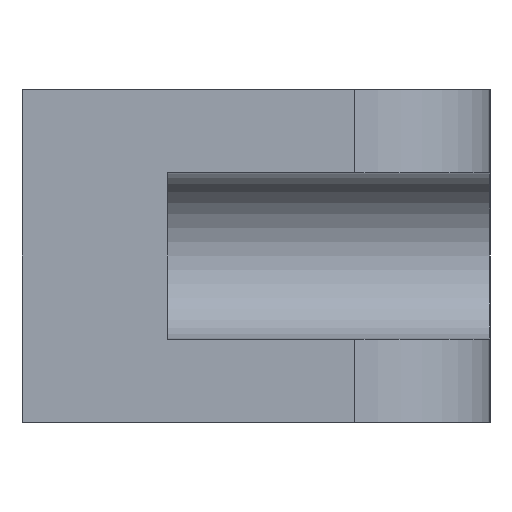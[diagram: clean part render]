
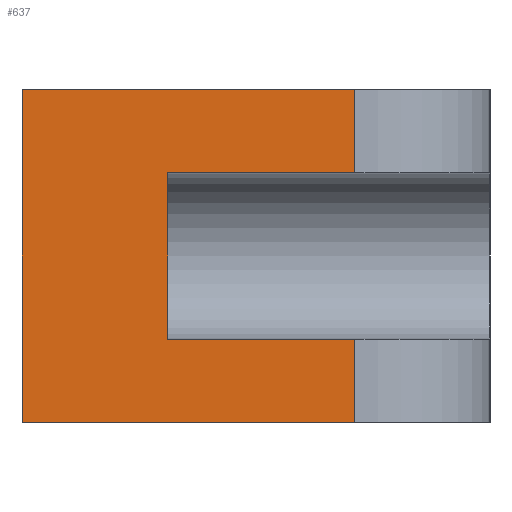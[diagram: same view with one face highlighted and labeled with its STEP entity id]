
A CAD part, left-side view. The second image highlights one B-rep face of the part: STEP entity #637.
In plain terms, the highlighted planar face has unit normal (-1, 0, 0).
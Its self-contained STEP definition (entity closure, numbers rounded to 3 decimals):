
#21 = CARTESIAN_POINT ( 'NONE',  ( 0., 31., 8. ) ) ;
#26 = ORIENTED_EDGE ( 'NONE', *, *, #220, .F. ) ;
#38 = CARTESIAN_POINT ( 'NONE',  ( 0., 45., 16. ) ) ;
#41 = VECTOR ( 'NONE', #98, 1000. ) ;
#44 = EDGE_LOOP ( 'NONE', ( #386, #279, #616, #26, #300, #612, #717, #89 ) ) ;
#54 = CARTESIAN_POINT ( 'NONE',  ( 0., 31., -8. ) ) ;
#88 = FACE_OUTER_BOUND ( 'NONE', #44, .T. ) ;
#89 = ORIENTED_EDGE ( 'NONE', *, *, #272, .F. ) ;
#98 = DIRECTION ( 'NONE',  ( 0., -1., 0. ) ) ;
#108 = DIRECTION ( 'NONE',  ( 0., 0., 1. ) ) ;
#118 = CARTESIAN_POINT ( 'NONE',  ( 0., 13., 16. ) ) ;
#138 = DIRECTION ( 'NONE',  ( 1., 0., 0. ) ) ;
#139 = LINE ( 'NONE', #553, #422 ) ;
#162 = CARTESIAN_POINT ( 'NONE',  ( 0., 13., 16. ) ) ;
#164 = DIRECTION ( 'NONE',  ( 0., -1., 0. ) ) ;
#171 = CARTESIAN_POINT ( 'NONE',  ( 0., 13., -16. ) ) ;
#172 = VERTEX_POINT ( 'NONE', #232 ) ;
#173 = VERTEX_POINT ( 'NONE', #171 ) ;
#174 = VECTOR ( 'NONE', #721, 1000. ) ;
#182 = EDGE_CURVE ( 'NONE', #388, #172, #336, .T. ) ;
#190 = LINE ( 'NONE', #655, #41 ) ;
#192 = PLANE ( 'NONE',  #253 ) ;
#203 = CARTESIAN_POINT ( 'NONE',  ( 0., 13., -8. ) ) ;
#211 = CARTESIAN_POINT ( 'NONE',  ( 0., 13., 8. ) ) ;
#220 = EDGE_CURVE ( 'NONE', #460, #172, #657, .T. ) ;
#227 = EDGE_CURVE ( 'NONE', #460, #642, #689, .T. ) ;
#232 = CARTESIAN_POINT ( 'NONE',  ( 0., 13., 16. ) ) ;
#253 = AXIS2_PLACEMENT_3D ( 'NONE', #540, #138, #474 ) ;
#255 = VECTOR ( 'NONE', #607, 1000. ) ;
#257 = EDGE_CURVE ( 'NONE', #644, #388, #604, .T. ) ;
#259 = DIRECTION ( 'NONE',  ( 0., 0., -1. ) ) ;
#260 = EDGE_CURVE ( 'NONE', #173, #520, #329, .T. ) ;
#272 = EDGE_CURVE ( 'NONE', #726, #520, #406, .T. ) ;
#277 = CARTESIAN_POINT ( 'NONE',  ( 0., 31., 8. ) ) ;
#278 = VECTOR ( 'NONE', #164, 1000. ) ;
#279 = ORIENTED_EDGE ( 'NONE', *, *, #257, .T. ) ;
#280 = CARTESIAN_POINT ( 'NONE',  ( 0., 45., 16. ) ) ;
#300 = ORIENTED_EDGE ( 'NONE', *, *, #227, .T. ) ;
#316 = VECTOR ( 'NONE', #667, 1000. ) ;
#325 = VECTOR ( 'NONE', #397, 1000. ) ;
#329 = LINE ( 'NONE', #162, #619 ) ;
#336 = LINE ( 'NONE', #118, #325 ) ;
#363 = CARTESIAN_POINT ( 'NONE',  ( 0., 45., -16. ) ) ;
#386 = ORIENTED_EDGE ( 'NONE', *, *, #510, .F. ) ;
#388 = VERTEX_POINT ( 'NONE', #211 ) ;
#397 = DIRECTION ( 'NONE',  ( 0., 0., 1. ) ) ;
#406 = LINE ( 'NONE', #54, #255 ) ;
#422 = VECTOR ( 'NONE', #259, 1000. ) ;
#428 = EDGE_CURVE ( 'NONE', #642, #173, #190, .T. ) ;
#460 = VERTEX_POINT ( 'NONE', #38 ) ;
#474 = DIRECTION ( 'NONE',  ( 0., 0., -1. ) ) ;
#510 = EDGE_CURVE ( 'NONE', #644, #726, #139, .T. ) ;
#520 = VERTEX_POINT ( 'NONE', #203 ) ;
#540 = CARTESIAN_POINT ( 'NONE',  ( 0., 0., 16. ) ) ;
#553 = CARTESIAN_POINT ( 'NONE',  ( 0., 31., 8. ) ) ;
#566 = CARTESIAN_POINT ( 'NONE',  ( 0., 0., 16. ) ) ;
#604 = LINE ( 'NONE', #277, #174 ) ;
#607 = DIRECTION ( 'NONE',  ( 0., -1., 0. ) ) ;
#612 = ORIENTED_EDGE ( 'NONE', *, *, #428, .T. ) ;
#616 = ORIENTED_EDGE ( 'NONE', *, *, #182, .T. ) ;
#619 = VECTOR ( 'NONE', #108, 1000. ) ;
#628 = CARTESIAN_POINT ( 'NONE',  ( 0., 31., -8. ) ) ;
#637 = ADVANCED_FACE ( 'NONE', ( #88 ), #192, .F. ) ;
#642 = VERTEX_POINT ( 'NONE', #363 ) ;
#644 = VERTEX_POINT ( 'NONE', #21 ) ;
#655 = CARTESIAN_POINT ( 'NONE',  ( 0., 0., -16. ) ) ;
#657 = LINE ( 'NONE', #566, #278 ) ;
#667 = DIRECTION ( 'NONE',  ( 0., 0., -1. ) ) ;
#689 = LINE ( 'NONE', #280, #316 ) ;
#717 = ORIENTED_EDGE ( 'NONE', *, *, #260, .T. ) ;
#721 = DIRECTION ( 'NONE',  ( 0., -1., 0. ) ) ;
#726 = VERTEX_POINT ( 'NONE', #628 ) ;
